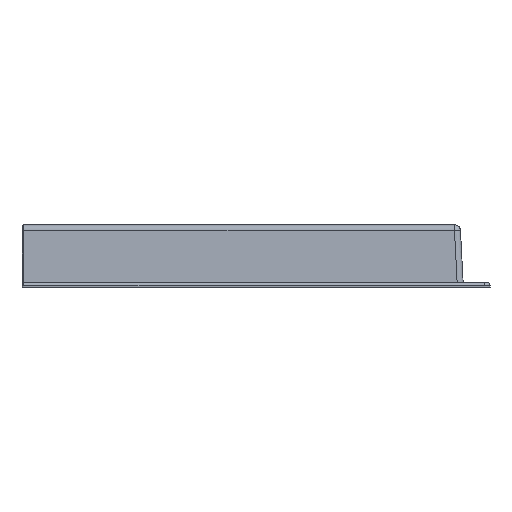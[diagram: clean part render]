
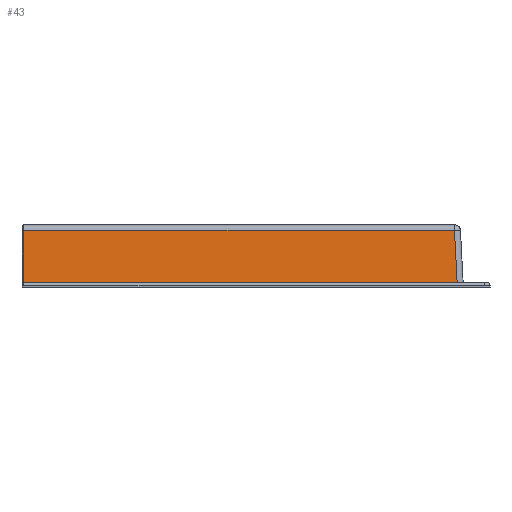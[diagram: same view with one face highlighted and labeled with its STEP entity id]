
A CAD part, left-side view. The second image highlights one B-rep face of the part: STEP entity #43.
In plain terms, the highlighted planar face has unit normal (-0.999, 0, 0.052).
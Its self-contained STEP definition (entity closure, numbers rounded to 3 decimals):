
#43=ADVANCED_FACE($,(#144),#1442,.T.);
#144=FACE_OUTER_BOUND($,#249,.T.);
#249=EDGE_LOOP($,(#482,#483,#484,#485,#486));
#482=ORIENTED_EDGE($,*,*,#1011,.F.);
#483=ORIENTED_EDGE($,*,*,#983,.F.);
#484=ORIENTED_EDGE($,*,*,#1016,.T.);
#485=ORIENTED_EDGE($,*,*,#1015,.T.);
#486=ORIENTED_EDGE($,*,*,#1014,.T.);
#983=EDGE_CURVE($,#1255,#1253,#1627,.T.);
#1011=EDGE_CURVE($,#1253,#1279,#1650,.T.);
#1014=EDGE_CURVE($,#1280,#1279,#1652,.T.);
#1015=EDGE_CURVE($,#1281,#1280,#1653,.T.);
#1016=EDGE_CURVE($,#1255,#1281,#1654,.T.);
#1253=VERTEX_POINT($,#3452);
#1255=VERTEX_POINT($,#3454);
#1279=VERTEX_POINT($,#3478);
#1280=VERTEX_POINT($,#3479);
#1281=VERTEX_POINT($,#3480);
#1442=PLANE($,#1852);
#1627=B_SPLINE_CURVE_WITH_KNOTS($,1,(#2111,#2112),.UNSPECIFIED.,.F.,.F.,
(2,2),(0.,217.504),.UNSPECIFIED.);
#1650=B_SPLINE_CURVE_WITH_KNOTS($,3,(#2188,#2189,#2190,#2191),.UNSPECIFIED.,
.F.,.F.,(4,4),(-1.,0.),.UNSPECIFIED.);
#1652=B_SPLINE_CURVE_WITH_KNOTS($,1,(#2201,#2202),.UNSPECIFIED.,.F.,.F.,
(2,2),(-26.21,0.),.UNSPECIFIED.);
#1653=B_SPLINE_CURVE_WITH_KNOTS($,1,(#2203,#2204),.UNSPECIFIED.,.F.,.F.,
(2,2),(-216.351,0.),.UNSPECIFIED.);
#1654=B_SPLINE_CURVE_WITH_KNOTS($,1,(#2205,#2206),.UNSPECIFIED.,.F.,.F.,
(2,2),(0.,26.225),.UNSPECIFIED.);
#1852=AXIS2_PLACEMENT_3D($,#2812,#1893,$);
#1893=DIRECTION($,(-0.999,0.,0.052));
#2111=CARTESIAN_POINT($,(-118.3,16.496,0.));
#2112=CARTESIAN_POINT($,(-118.3,234.,0.));
#2188=CARTESIAN_POINT($,(-118.3,234.,0.));
#2189=CARTESIAN_POINT($,(-118.3,234.067,0.));
#2190=CARTESIAN_POINT($,(-118.301,234.134,-0.007));
#2191=CARTESIAN_POINT($,(-118.301,234.2,-0.02));
#2201=CARTESIAN_POINT($,(-116.947,234.2,26.155));
#2202=CARTESIAN_POINT($,(-118.301,234.2,-0.02));
#2203=CARTESIAN_POINT($,(-116.947,17.849,26.155));
#2204=CARTESIAN_POINT($,(-116.947,234.2,26.155));
#2205=CARTESIAN_POINT($,(-118.3,16.496,0.));
#2206=CARTESIAN_POINT($,(-116.947,17.849,26.155));
#2812=CARTESIAN_POINT($,(-118.301,16.496,-0.02));
#3452=CARTESIAN_POINT($,(-118.3,234.,0.));
#3454=CARTESIAN_POINT($,(-118.3,16.496,0.));
#3478=CARTESIAN_POINT($,(-118.301,234.2,-0.02));
#3479=CARTESIAN_POINT($,(-116.947,234.2,26.155));
#3480=CARTESIAN_POINT($,(-116.947,17.849,26.155));
